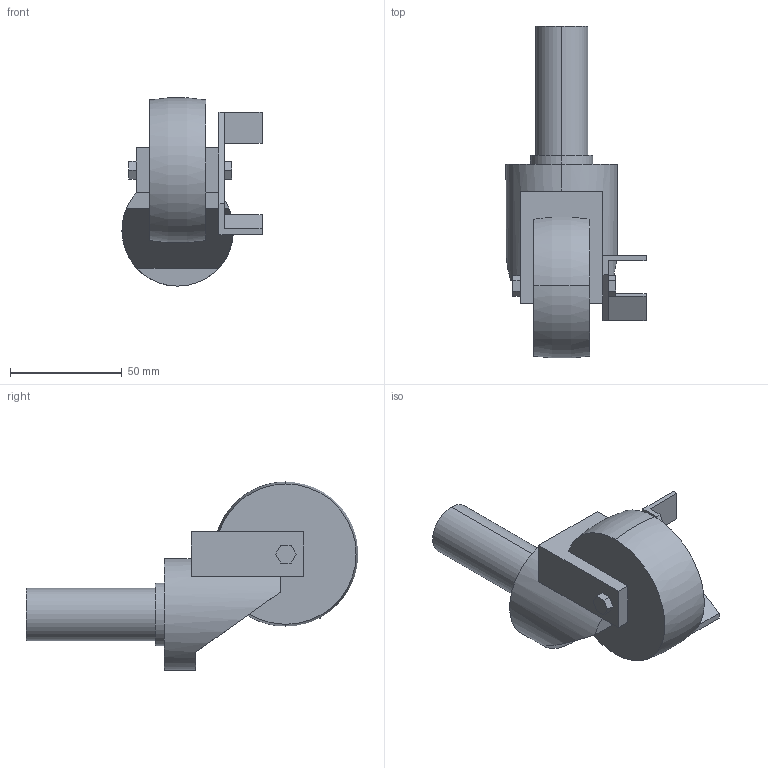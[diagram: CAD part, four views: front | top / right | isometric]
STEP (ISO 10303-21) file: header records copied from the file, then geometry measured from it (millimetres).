
FILE_DESCRIPTION (( 'STEP AP214' ), '1' );
FILE_NAME ('SUS-65SN.step', '2024-02-15T04:32:24', ( 'catia' ), ( 'HP Inc.' ), 'SwSTEP 2.0', 'SolidWorks 2021', '' );
FILE_SCHEMA (( 'AUTOMOTIVE_DESIGN' ));
Length unit declared in the file: millimetre
Products named in the file (1): SUS-65SN
Bounding box: 62.8 x 148.81 x 84.38 mm (x, y, z)
Volume: 184431.3 mm3; surface area: 26849.8 mm2
Topology: 1 solids, 1 shells, 56 faces, 144 edges, 94 vertices
Faces by surface type: plane 47, cylinder 6, torus 3
Entity records: 1727 total; most frequent: CARTESIAN_POINT 314, ORIENTED_EDGE 288, DIRECTION 278, EDGE_CURVE 144, VECTOR 116, LINE 116, VERTEX_POINT 94, AXIS2_PLACEMENT_3D 81
